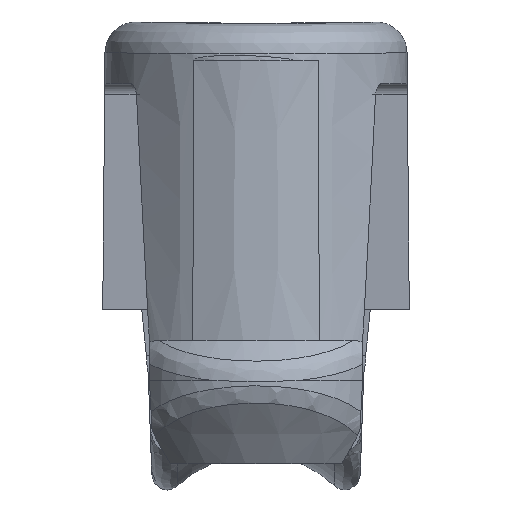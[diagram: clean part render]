
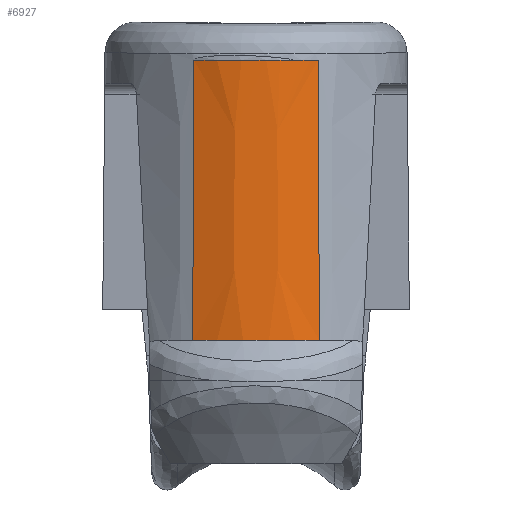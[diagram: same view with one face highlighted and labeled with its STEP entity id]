
A CAD part, front view. The second image highlights one B-rep face of the part: STEP entity #6927.
In plain terms, the highlighted conical face has half-angle 0.5 degrees and reference radius 4.85 mm.
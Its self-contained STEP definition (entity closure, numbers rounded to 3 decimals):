
#193=B_SPLINE_CURVE_WITH_KNOTS('',3,(#11264,#11265,#11266,#11267,#11268,
#11269,#11270,#11271,#11272,#11273,#11274,#11275,#11276,#11277,#11278,#11279,
#11280,#11281,#11282,#11283,#11284,#11285,#11286,#11287,#11288),
 .UNSPECIFIED.,.F.,.F.,(4,3,3,3,3,3,3,3,4),(0.362,0.396,
0.429,0.457,0.486,0.515,
0.544,0.573,0.582),.UNSPECIFIED.);
#236=CONICAL_SURFACE('',#7391,4.85,0.009);
#386=FACE_OUTER_BOUND('',#752,.T.);
#752=EDGE_LOOP('',(#4546,#4547,#4548,#4549,#4550));
#1162=CIRCLE('',#7358,4.859);
#1174=CIRCLE('',#7392,4.78);
#1353=LINE('',#11289,#2017);
#1354=LINE('',#11291,#2018);
#2017=VECTOR('',#8163,10.);
#2018=VECTOR('',#8164,10.);
#2751=VERTEX_POINT('',#10306);
#2752=VERTEX_POINT('',#10308);
#2795=VERTEX_POINT('',#11262);
#2796=VERTEX_POINT('',#11263);
#2797=VERTEX_POINT('',#11290);
#3439=EDGE_CURVE('',#2752,#2751,#1162,.T.);
#3494=EDGE_CURVE('',#2795,#2796,#193,.T.);
#3495=EDGE_CURVE('',#2795,#2752,#1353,.T.);
#3496=EDGE_CURVE('',#2751,#2797,#1354,.T.);
#3497=EDGE_CURVE('',#2796,#2797,#1174,.T.);
#4546=ORIENTED_EDGE('',*,*,#3494,.F.);
#4547=ORIENTED_EDGE('',*,*,#3495,.T.);
#4548=ORIENTED_EDGE('',*,*,#3439,.T.);
#4549=ORIENTED_EDGE('',*,*,#3496,.T.);
#4550=ORIENTED_EDGE('',*,*,#3497,.F.);
#6927=ADVANCED_FACE('',(#386),#236,.T.);
#7358=AXIS2_PLACEMENT_3D('',#10309,#8087,#8088);
#7391=AXIS2_PLACEMENT_3D('',#11261,#8161,#8162);
#7392=AXIS2_PLACEMENT_3D('',#11292,#8165,#8166);
#8087=DIRECTION('center_axis',(0.,0.,
1.));
#8088=DIRECTION('ref_axis',(-0.707,-0.707,0.));
#8161=DIRECTION('center_axis',(0.,0.,
-1.));
#8162=DIRECTION('ref_axis',(-1.,0.,0.));
#8163=DIRECTION('',(-0.004,-0.008,-1.));
#8164=DIRECTION('',(-0.004,0.008,1.));
#8165=DIRECTION('center_axis',(-0.005,-0.002,
1.));
#8166=DIRECTION('ref_axis',(0.421,-0.907,0.001));
#10306=CARTESIAN_POINT('',(2.062,-19.408,-1.));
#10308=CARTESIAN_POINT('',(-2.027,-19.408,-1.));
#10309=CARTESIAN_POINT('Origin',(0.017,-15.,-1.));
#11261=CARTESIAN_POINT('Origin',(0.017,-15.,0.));
#11262=CARTESIAN_POINT('',(-1.988,-19.339,8.044));
#11263=CARTESIAN_POINT('',(1.23,-19.624,8.04));
#11264=CARTESIAN_POINT('Ctrl Pts',(-1.988,-19.339,8.044));
#11265=CARTESIAN_POINT('Ctrl Pts',(-1.837,-19.408,
8.043));
#11266=CARTESIAN_POINT('Ctrl Pts',(-1.683,-19.47,
8.042));
#11267=CARTESIAN_POINT('Ctrl Pts',(-1.525,-19.524,
8.041));
#11268=CARTESIAN_POINT('Ctrl Pts',(-1.37,-19.577,
8.04));
#11269=CARTESIAN_POINT('Ctrl Pts',(-1.211,-19.622,
8.039));
#11270=CARTESIAN_POINT('Ctrl Pts',(-1.051,-19.659,
8.038));
#11271=CARTESIAN_POINT('Ctrl Pts',(-0.91,-19.691,
8.038));
#11272=CARTESIAN_POINT('Ctrl Pts',(-0.769,-19.717,
8.038));
#11273=CARTESIAN_POINT('Ctrl Pts',(-0.626,-19.736,8.037));
#11274=CARTESIAN_POINT('Ctrl Pts',(-0.483,-19.756,
8.037));
#11275=CARTESIAN_POINT('Ctrl Pts',(-0.339,-19.769,
8.037));
#11276=CARTESIAN_POINT('Ctrl Pts',(-0.195,-19.775,
8.037));
#11277=CARTESIAN_POINT('Ctrl Pts',(-0.051,-19.782,
8.037));
#11278=CARTESIAN_POINT('Ctrl Pts',(0.093,-19.781,
8.037));
#11279=CARTESIAN_POINT('Ctrl Pts',(0.237,-19.775,
8.037));
#11280=CARTESIAN_POINT('Ctrl Pts',(0.381,-19.768,
8.037));
#11281=CARTESIAN_POINT('Ctrl Pts',(0.525,-19.755,
8.037));
#11282=CARTESIAN_POINT('Ctrl Pts',(0.668,-19.735,
8.038));
#11283=CARTESIAN_POINT('Ctrl Pts',(0.81,-19.716,
8.038));
#11284=CARTESIAN_POINT('Ctrl Pts',(0.952,-19.69,
8.039));
#11285=CARTESIAN_POINT('Ctrl Pts',(1.093,-19.657,8.039));
#11286=CARTESIAN_POINT('Ctrl Pts',(1.138,-19.647,8.039));
#11287=CARTESIAN_POINT('Ctrl Pts',(1.184,-19.636,8.04));
#11288=CARTESIAN_POINT('Ctrl Pts',(1.23,-19.624,8.04));
#11289=CARTESIAN_POINT('',(-1.994,-19.336,8.044));
#11290=CARTESIAN_POINT('',(2.029,-19.336,8.044));
#11291=CARTESIAN_POINT('',(2.062,-19.408,-1.));
#11292=CARTESIAN_POINT('Origin',(0.017,-15.,8.041));
